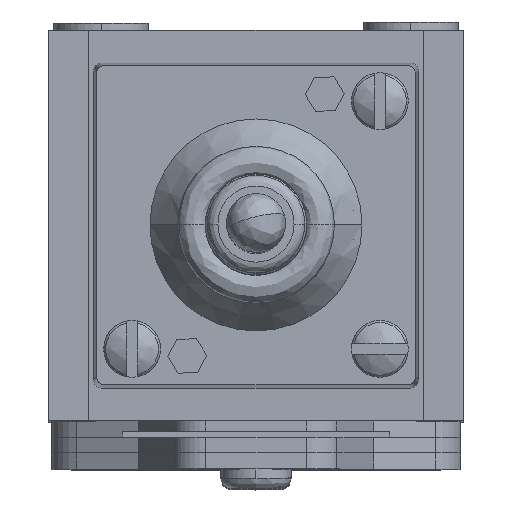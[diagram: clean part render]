
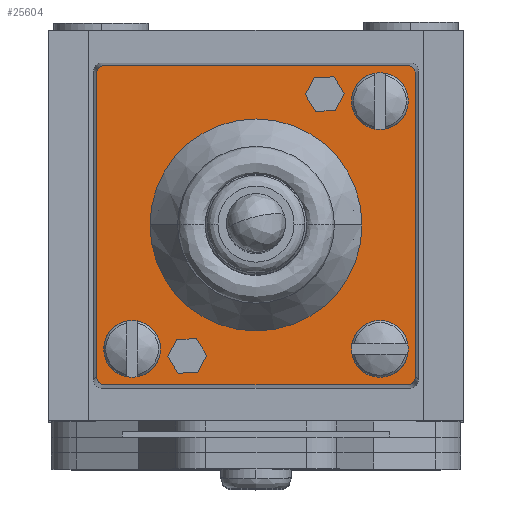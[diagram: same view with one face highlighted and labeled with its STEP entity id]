
A CAD part, top view. The second image highlights one B-rep face of the part: STEP entity #25604.
In plain terms, the highlighted planar face has unit normal (0, 0, 1).
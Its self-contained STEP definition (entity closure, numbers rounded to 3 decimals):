
#25237 = EDGE_CURVE ( 'NONE', #25239, #25241, #31469, .T. ) ;
#25239 = VERTEX_POINT ( 'NONE', #31463 ) ;
#25241 = VERTEX_POINT ( 'NONE', #31461 ) ;
#25561 = EDGE_CURVE ( 'NONE', #25241, #25239, #32439, .T. ) ;
#25598 = VERTEX_POINT ( 'NONE', #32542 ) ;
#25599 = ORIENTED_EDGE ( 'NONE', *, *, #25600, .F. ) ;
#25600 = EDGE_CURVE ( 'NONE', #25601, #25598, #32541, .T. ) ;
#25601 = VERTEX_POINT ( 'NONE', #32537 ) ;
#25604 = ADVANCED_FACE ( 'NONE', ( #32536, #32591 ), #32575, .F. ) ;
#25605 = EDGE_LOOP ( 'NONE', ( #25606, #25610, #25613, #25677, #25599, #25641, #25644, #25647 ) ) ;
#25606 = ORIENTED_EDGE ( 'NONE', *, *, #25607, .F. ) ;
#25607 = EDGE_CURVE ( 'NONE', #25608, #25609, #32570, .T. ) ;
#25608 = VERTEX_POINT ( 'NONE', #32566 ) ;
#25609 = VERTEX_POINT ( 'NONE', #32565 ) ;
#25610 = ORIENTED_EDGE ( 'NONE', *, *, #25611, .F. ) ;
#25611 = EDGE_CURVE ( 'NONE', #25612, #25608, #32564, .T. ) ;
#25612 = VERTEX_POINT ( 'NONE', #32616 ) ;
#25613 = ORIENTED_EDGE ( 'NONE', *, *, #25614, .F. ) ;
#25614 = EDGE_CURVE ( 'NONE', #25615, #25612, #32615, .T. ) ;
#25615 = VERTEX_POINT ( 'NONE', #32611 ) ;
#25641 = ORIENTED_EDGE ( 'NONE', *, *, #25642, .F. ) ;
#25642 = EDGE_CURVE ( 'NONE', #25643, #25601, #32694, .T. ) ;
#25643 = VERTEX_POINT ( 'NONE', #32689 ) ;
#25644 = ORIENTED_EDGE ( 'NONE', *, *, #25645, .F. ) ;
#25645 = EDGE_CURVE ( 'NONE', #25646, #25643, #32688, .T. ) ;
#25646 = VERTEX_POINT ( 'NONE', #32684 ) ;
#25647 = ORIENTED_EDGE ( 'NONE', *, *, #25648, .F. ) ;
#25648 = EDGE_CURVE ( 'NONE', #25609, #25646, #32733, .T. ) ;
#25649 = EDGE_LOOP ( 'NONE', ( #25650, #25651 ) ) ;
#25650 = ORIENTED_EDGE ( 'NONE', *, *, #25237, .F. ) ;
#25651 = ORIENTED_EDGE ( 'NONE', *, *, #25561, .F. ) ;
#25677 = ORIENTED_EDGE ( 'NONE', *, *, #25678, .F. ) ;
#25678 = EDGE_CURVE ( 'NONE', #25598, #25615, #32809, .T. ) ;
#31461 = CARTESIAN_POINT ( 'NONE',  ( -9.322, 0., 0. ) ) ;
#31463 = CARTESIAN_POINT ( 'NONE',  ( 9.322, 0., 0. ) ) ;
#31465 = DIRECTION ( 'NONE',  ( 1., 0., 0. ) ) ;
#31466 = DIRECTION ( 'NONE',  ( 0., 0., 1. ) ) ;
#31467 = CARTESIAN_POINT ( 'NONE',  ( 0., 0., 0. ) ) ;
#31468 = AXIS2_PLACEMENT_3D ( 'NONE', #31467, #31466, #31465 ) ;
#31469 = CIRCLE ( 'NONE', #31468, 9.322 ) ;
#32435 = DIRECTION ( 'NONE',  ( 1., 0., 0. ) ) ;
#32436 = DIRECTION ( 'NONE',  ( 0., 0., 1. ) ) ;
#32437 = CARTESIAN_POINT ( 'NONE',  ( 0., 0., 0. ) ) ;
#32438 = AXIS2_PLACEMENT_3D ( 'NONE', #32437, #32436, #32435 ) ;
#32439 = CIRCLE ( 'NONE', #32438, 9.322 ) ;
#32536 = FACE_OUTER_BOUND ( 'NONE', #25605, .T. ) ;
#32537 = CARTESIAN_POINT ( 'NONE',  ( -15.134, -14.372, 0. ) ) ;
#32538 = DIRECTION ( 'NONE',  ( 0., 1., 0. ) ) ;
#32539 = VECTOR ( 'NONE', #32538, 1000. ) ;
#32540 = CARTESIAN_POINT ( 'NONE',  ( -15.134, -14.372, 0. ) ) ;
#32541 = LINE ( 'NONE', #32540, #32539 ) ;
#32542 = CARTESIAN_POINT ( 'NONE',  ( -15.134, 14.372, 0. ) ) ;
#32564 = CIRCLE ( 'NONE', #32620, 0.762 ) ;
#32565 = CARTESIAN_POINT ( 'NONE',  ( 15.134, -14.372, 0. ) ) ;
#32566 = CARTESIAN_POINT ( 'NONE',  ( 15.134, 14.372, 0. ) ) ;
#32567 = DIRECTION ( 'NONE',  ( 0., -1., 0. ) ) ;
#32568 = VECTOR ( 'NONE', #32567, 1000. ) ;
#32569 = CARTESIAN_POINT ( 'NONE',  ( 15.134, 14.372, 0. ) ) ;
#32570 = LINE ( 'NONE', #32569, #32568 ) ;
#32571 = DIRECTION ( 'NONE',  ( -1., 0., 0. ) ) ;
#32572 = DIRECTION ( 'NONE',  ( 0., 0., -1. ) ) ;
#32573 = CARTESIAN_POINT ( 'NONE',  ( 15.134, -14.372, 0. ) ) ;
#32574 = AXIS2_PLACEMENT_3D ( 'NONE', #32573, #32572, #32571 ) ;
#32575 = PLANE ( 'NONE',  #32574 ) ;
#32591 = FACE_BOUND ( 'NONE', #25649, .T. ) ;
#32611 = CARTESIAN_POINT ( 'NONE',  ( -14.372, 15.134, 0. ) ) ;
#32612 = DIRECTION ( 'NONE',  ( 1., 0., 0. ) ) ;
#32613 = VECTOR ( 'NONE', #32612, 1000. ) ;
#32614 = CARTESIAN_POINT ( 'NONE',  ( -14.372, 15.134, 0. ) ) ;
#32615 = LINE ( 'NONE', #32614, #32613 ) ;
#32616 = CARTESIAN_POINT ( 'NONE',  ( 14.372, 15.134, 0. ) ) ;
#32617 = DIRECTION ( 'NONE',  ( 1., 0., 0. ) ) ;
#32618 = DIRECTION ( 'NONE',  ( 0., 0., -1. ) ) ;
#32619 = CARTESIAN_POINT ( 'NONE',  ( 14.372, 14.372, 0. ) ) ;
#32620 = AXIS2_PLACEMENT_3D ( 'NONE', #32619, #32618, #32617 ) ;
#32684 = CARTESIAN_POINT ( 'NONE',  ( 14.372, -15.134, 0. ) ) ;
#32685 = DIRECTION ( 'NONE',  ( -1., 0., 0. ) ) ;
#32686 = VECTOR ( 'NONE', #32685, 1000. ) ;
#32687 = CARTESIAN_POINT ( 'NONE',  ( 14.372, -15.134, 0. ) ) ;
#32688 = LINE ( 'NONE', #32687, #32686 ) ;
#32689 = CARTESIAN_POINT ( 'NONE',  ( -14.372, -15.134, 0. ) ) ;
#32690 = DIRECTION ( 'NONE',  ( 1., 0., 0. ) ) ;
#32691 = DIRECTION ( 'NONE',  ( 0., 0., -1. ) ) ;
#32692 = CARTESIAN_POINT ( 'NONE',  ( -14.372, -14.372, 0. ) ) ;
#32693 = AXIS2_PLACEMENT_3D ( 'NONE', #32692, #32691, #32690 ) ;
#32694 = CIRCLE ( 'NONE', #32693, 0.762 ) ;
#32729 = DIRECTION ( 'NONE',  ( 1., 0., 0. ) ) ;
#32730 = DIRECTION ( 'NONE',  ( 0., 0., -1. ) ) ;
#32731 = CARTESIAN_POINT ( 'NONE',  ( 14.372, -14.372, 0. ) ) ;
#32732 = AXIS2_PLACEMENT_3D ( 'NONE', #32731, #32730, #32729 ) ;
#32733 = CIRCLE ( 'NONE', #32732, 0.762 ) ;
#32805 = DIRECTION ( 'NONE',  ( 1., 0., 0. ) ) ;
#32806 = DIRECTION ( 'NONE',  ( 0., 0., -1. ) ) ;
#32807 = CARTESIAN_POINT ( 'NONE',  ( -14.372, 14.372, 0. ) ) ;
#32808 = AXIS2_PLACEMENT_3D ( 'NONE', #32807, #32806, #32805 ) ;
#32809 = CIRCLE ( 'NONE', #32808, 0.762 ) ;
